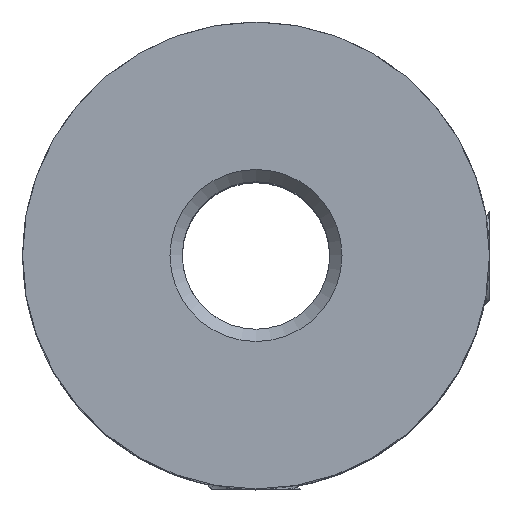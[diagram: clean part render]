
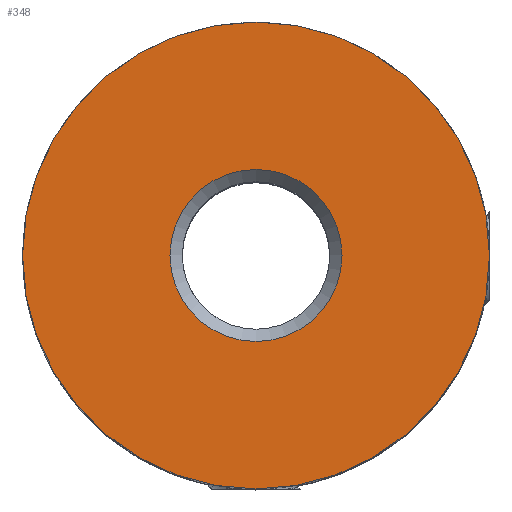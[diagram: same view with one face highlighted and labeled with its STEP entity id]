
A CAD part, top view. The second image highlights one B-rep face of the part: STEP entity #348.
In plain terms, the highlighted planar face has unit normal (0, 0, 1).
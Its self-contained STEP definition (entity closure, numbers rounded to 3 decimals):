
#348=ADVANCED_FACE('',(#536,#537),#424,.T.);
#424=PLANE('',#1798);
#448=CIRCLE('',#1789,9.5);
#452=CIRCLE('',#1797,3.5);
#536=FACE_BOUND('',#658,.T.);
#537=FACE_BOUND('',#659,.T.);
#658=EDGE_LOOP('',(#1066));
#659=EDGE_LOOP('',(#1067));
#1066=ORIENTED_EDGE('',*,*,#1444,.T.);
#1067=ORIENTED_EDGE('',*,*,#1432,.F.);
#1226=VERTEX_POINT('',#13627);
#1238=VERTEX_POINT('',#14249);
#1432=EDGE_CURVE('',#1226,#1226,#448,.T.);
#1444=EDGE_CURVE('',#1238,#1238,#452,.T.);
#1789=AXIS2_PLACEMENT_3D('',#13626,#2119,#2120);
#1797=AXIS2_PLACEMENT_3D('',#14248,#2135,#2136);
#1798=AXIS2_PLACEMENT_3D('',#14250,#2137,#2138);
#2119=DIRECTION('',(0.,0.,-1.));
#2120=DIRECTION('',(1.,0.,0.));
#2135=DIRECTION('',(0.,0.,-1.));
#2136=DIRECTION('',(1.,0.,0.));
#2137=DIRECTION('',(0.,0.,1.));
#2138=DIRECTION('',(1.,0.,0.));
#13626=CARTESIAN_POINT('',(0.,0.,25.));
#13627=CARTESIAN_POINT('',(9.5,0.,25.));
#14248=CARTESIAN_POINT('',(0.,0.,25.));
#14249=CARTESIAN_POINT('',(3.5,0.,25.));
#14250=CARTESIAN_POINT('',(0.,0.,25.));
